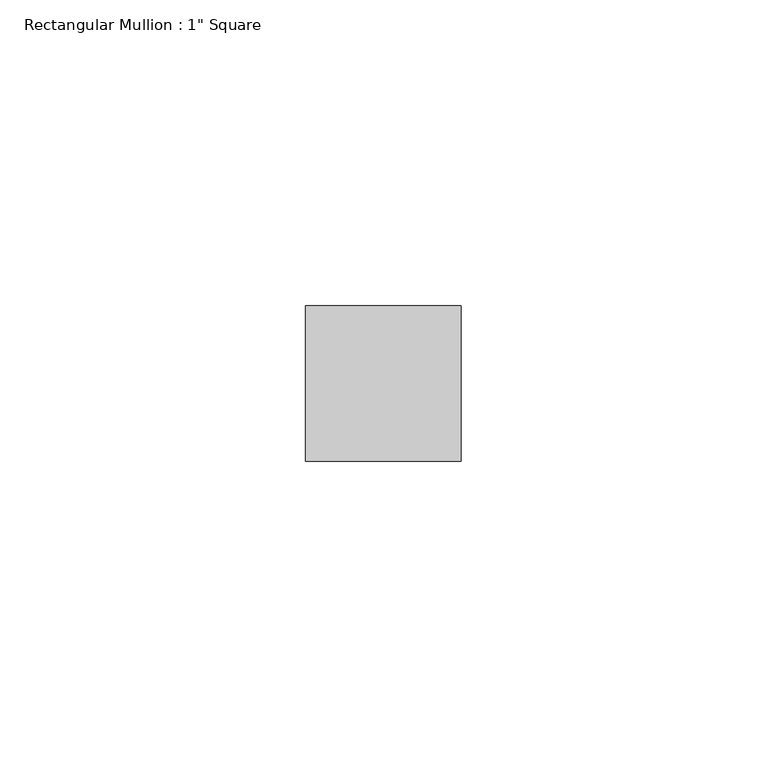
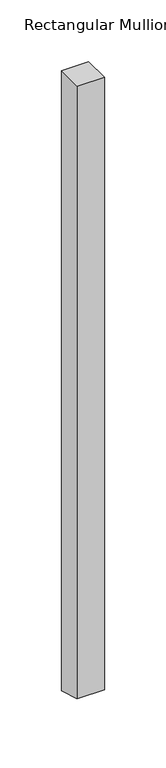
"""IFC4 building model written with IfcOpenShell, lengths in millimetres: member geometry."""

import ifcopenshell
import ifcopenshell.guid

model = None  # the IFC model being written
_history = None  # IfcOwnerHistory: only IFC2X3 demands one
_inside = {}  # id of a spatial element -> (the spatial element, [elements in it])
_under = {}  # id of a project, library or spatial element -> (it, [spatial elements below it])
_declared = {}  # id of a project -> (the project, [libraries it declares])
_typed = {}  # id of a type object -> (the type object, [elements of that type])
_made_of = {}  # id of a material, layer set ... -> (it, [elements and type objects made of it])


def new_model(schema):
    """Start an empty IFC model of exactly this schema.

    Asked for "IFC4X3", IfcOpenShell would pick the latest addendum, in which some entities
    have other attributes; the version numbers below select the first issue.
    IFC2X3 requires an IfcOwnerHistory on every rooted entity: one is made here for all.
    """
    global model, _history
    if schema == "IFC4X3":
        model = ifcopenshell.file(schema_version=(4, 3, 0, 0))
    else:
        model = ifcopenshell.file(schema=schema)
    _inside.clear()
    _under.clear()
    _declared.clear()
    _typed.clear()
    _made_of.clear()
    _history = None
    if model.schema == "IFC2X3":
        org = make("IfcOrganization", Name="unknown")
        user = make(
            "IfcPersonAndOrganization",
            ThePerson=make("IfcPerson", FamilyName="unknown"),
            TheOrganization=org,
        )
        app = make(
            "IfcApplication",
            ApplicationDeveloper=org,
            Version="unknown",
            ApplicationFullName="unknown",
            ApplicationIdentifier="unknown",
        )
        _history = make(
            "IfcOwnerHistory",
            OwningUser=user,
            OwningApplication=app,
            ChangeAction="ADDED",
            CreationDate=0,
        )
    return model


def make(cls, **values):
    """One entity of the class cls with the attributes given. An attribute that is None is left unset."""
    return model.create_entity(
        cls, **{name: value for name, value in values.items() if value is not None}
    )


def rooted(cls, **values):
    """An entity with a GlobalId (a new one), such as an element, a storey or a relation."""
    return make(cls, GlobalId=ifcopenshell.guid.new(), OwnerHistory=_history, **values)


def si_unit(unit_type, name, prefix=None):
    """IfcSIUnit, for example si_unit("LENGTHUNIT", "METRE", prefix="MILLI")."""
    return make("IfcSIUnit", UnitType=unit_type, Prefix=prefix, Name=name)


def assignment(units):
    """IfcUnitAssignment: the units of a project."""
    return None if units is None else make("IfcUnitAssignment", Units=units)


def point(xyz):
    """IfcCartesianPoint."""
    return None if xyz is None else make("IfcCartesianPoint", Coordinates=xyz)


def direction(xyz):
    """IfcDirection."""
    return None if xyz is None else make("IfcDirection", DirectionRatios=xyz)


def frame(location, z_axis=None, x_axis=None):
    """IfcAxis2Placement3D, a coordinate frame: its origin and axes. An axis left out is left unset."""
    return make(
        "IfcAxis2Placement3D",
        Location=point(location),
        Axis=direction(z_axis),
        RefDirection=direction(x_axis),
    )


def origin():
    """The frame at (0, 0, 0) with its axes left unset."""
    return frame((0.0, 0.0, 0.0))


def place(relative_to, where):
    """IfcLocalPlacement: puts the frame where relative to a parent placement (None: the world)."""
    return make(
        "IfcLocalPlacement", PlacementRelTo=relative_to, RelativePlacement=where
    )


def context(
    kind, dimensions, precision=None, world=None, true_north=None, identifier=None
):
    """IfcGeometricRepresentationContext, for example the 3D "Model" context."""
    return make(
        "IfcGeometricRepresentationContext",
        ContextIdentifier=identifier,
        ContextType=kind,
        CoordinateSpaceDimension=dimensions,
        Precision=precision,
        WorldCoordinateSystem=world,
        TrueNorth=true_north,
    )


def project(units=None, contexts=None):
    """IfcProject with its units and contexts."""
    return rooted(
        "IfcProject",
        Name="project",
        RepresentationContexts=contexts,
        UnitsInContext=assignment(units),
    )


def spatial(cls, under=None, at=None, **own):
    """A site, building, storey or space (cls), placed at a placement, below another one or the project."""
    s = rooted(cls, ObjectPlacement=at, **own)
    if under is not None:
        _under.setdefault(under.id(), (under, []))[1].append(s)
    return s


def polyline(points):
    """IfcPolyline through the points."""
    return make("IfcPolyline", Points=[point(p) for p in points])


def outline(outer, holes=None, kind="AREA"):
    """IfcArbitraryClosedProfileDef: a profile drawn as a closed curve; with holes, ...WithVoids."""
    if holes is None:
        return make("IfcArbitraryClosedProfileDef", ProfileType=kind, OuterCurve=outer)
    return make(
        "IfcArbitraryProfileDefWithVoids",
        ProfileType=kind,
        OuterCurve=outer,
        InnerCurves=holes,
    )


def extrude(swept, where, along, depth):
    """IfcExtrudedAreaSolid: the profile swept, set in the frame where, extruded along a direction by depth."""
    return make(
        "IfcExtrudedAreaSolid",
        SweptArea=swept,
        Position=where,
        ExtrudedDirection=direction(along),
        Depth=depth,
    )


def shape(context_of_items, identifier, shape_type, items):
    """IfcShapeRepresentation: the items that make up one representation, for example the "Body"."""
    return make(
        "IfcShapeRepresentation",
        ContextOfItems=context_of_items,
        RepresentationIdentifier=identifier,
        RepresentationType=shape_type,
        Items=items,
    )


def source(mapping_origin, context_of_items, identifier, shape_type, items):
    """IfcRepresentationMap: a shape defined once, which mapped items show again and again."""
    return make(
        "IfcRepresentationMap",
        MappingOrigin=mapping_origin,
        MappedRepresentation=shape(context_of_items, identifier, shape_type, items),
    )


def transform(
    local_origin,
    x_axis=None,
    y_axis=None,
    z_axis=None,
    scale=None,
    scale2=None,
    scale3=None,
    uniform=True,
):
    """IfcCartesianTransformationOperator3D, or its non-uniform kind. x_axis, y_axis, z_axis: its Axis1, 2, 3."""
    if uniform:
        return make(
            "IfcCartesianTransformationOperator3D",
            Axis1=direction(x_axis),
            Axis2=direction(y_axis),
            LocalOrigin=point(local_origin),
            Scale=scale,
            Axis3=direction(z_axis),
        )
    return make(
        "IfcCartesianTransformationOperator3DnonUniform",
        Axis1=direction(x_axis),
        Axis2=direction(y_axis),
        LocalOrigin=point(local_origin),
        Scale=scale,
        Axis3=direction(z_axis),
        Scale2=scale2,
        Scale3=scale3,
    )


def mapped(mapping_source, mapping_target):
    """IfcMappedItem: shows the shape of a source again, moved by a transform."""
    return make(
        "IfcMappedItem", MappingSource=mapping_source, MappingTarget=mapping_target
    )


def made_of(thing, what):
    """Note that an element or type object is made of a material, layer set ...; save() writes the relation."""
    if what is not None:
        _made_of.setdefault(what.id(), (what, []))[1].append(thing)
    return thing


def element(
    cls,
    number,
    at=None,
    inside=None,
    cuts=None,
    type_object=None,
    material=None,
    context=None,
    identifier="Body",
    shape_type=None,
    held_by="IfcProductDefinitionShape",
    body=None,
    shapes=None,
    **own,
):
    """One element of the class cls, such as IfcWall. Its Tag is "e" and its number.

    at: its placement. inside: the storey or other place that contains it. cuts: it is an
    opening in that element (IfcRelVoidsElement). A single representation is given by context,
    identifier, shape_type and body (its items); several are given by shapes. held_by: the class
    of the entity that holds the representations. save() writes the other relations.
    """
    e = rooted(cls, Tag="e%d" % number, ObjectPlacement=at, **own)
    if body is not None:
        shapes = [shape(context, identifier, shape_type, body)]
    if shapes is not None:
        e.Representation = make(held_by, Representations=shapes)
    if inside is not None:
        _inside.setdefault(inside.id(), (inside, []))[1].append(e)
    if cuts is not None:
        rooted(
            "IfcRelVoidsElement", RelatingBuildingElement=cuts, RelatedOpeningElement=e
        )
    if type_object is not None:
        _typed.setdefault(type_object.id(), (type_object, []))[1].append(e)
    return made_of(e, material)


def aggregate(whole, parts):
    """IfcRelAggregates: a whole, such as a stair, and the parts it consists of."""
    return rooted("IfcRelAggregates", RelatingObject=whole, RelatedObjects=parts)


def save(model, path):
    """Write the relations noted so far, then the file.

    IfcRelAggregates (storeys below a building ...), IfcRelContainedInSpatialStructure (elements
    in a storey), IfcRelDefinesByType, IfcRelAssociatesMaterial and IfcRelDeclares: one each for
    every whole, place, type object, material and project.
    """
    for whole, parts in _under.values():
        aggregate(whole, parts)
    for where, things in _inside.values():
        rooted(
            "IfcRelContainedInSpatialStructure",
            RelatedElements=things,
            RelatingStructure=where,
        )
    for kind, things in _typed.values():
        rooted("IfcRelDefinesByType", RelatedObjects=things, RelatingType=kind)
    for what, things in _made_of.values():
        rooted("IfcRelAssociatesMaterial", RelatedObjects=things, RelatingMaterial=what)
    for by, libraries in _declared.values():
        rooted("IfcRelDeclares", RelatingContext=by, RelatedDefinitions=libraries)
    model.write(path)


def member_d6b8231b(model_context):
    return source(origin(), model_context, "Body", "SweptSolid", [
        extrude(outline(polyline([(-12.7, 0.0), (12.7, 0.0), (12.7, -613.3084403), (-12.7, -605.8915597), (-12.7, 0.0)])), frame((-12.7, 0.0, 0.0), z_axis=(1.0, 0.0, 0.0), x_axis=(0.0, 1.0, 0.0)), (0.0, 0.0, 1.0), 25.4),
    ])


if __name__ == "__main__":
    model = new_model("IFC4")
    model_context = context("Model", 3, world=origin())
    ifc_project = project(units=[si_unit("LENGTHUNIT", "METRE", prefix="MILLI")], contexts=[model_context])
    site = spatial("IfcSite", under=ifc_project)
    building = spatial("IfcBuilding", under=site)
    placement = place(None, origin())
    member_shape = member_d6b8231b(model_context)
    element("IfcMember", 1, ObjectType="Rectangular Mullion : 1\" Square", at=placement, inside=building, context=model_context, shape_type="MappedRepresentation", body=[
        mapped(member_shape, transform((0.0, 0.0, 0.0), x_axis=(1.0, 0.0, 0.0), y_axis=(0.0, 1.0, 0.0), z_axis=(0.0, 0.0, 1.0))),
    ])
    save(model, "model.ifc")
